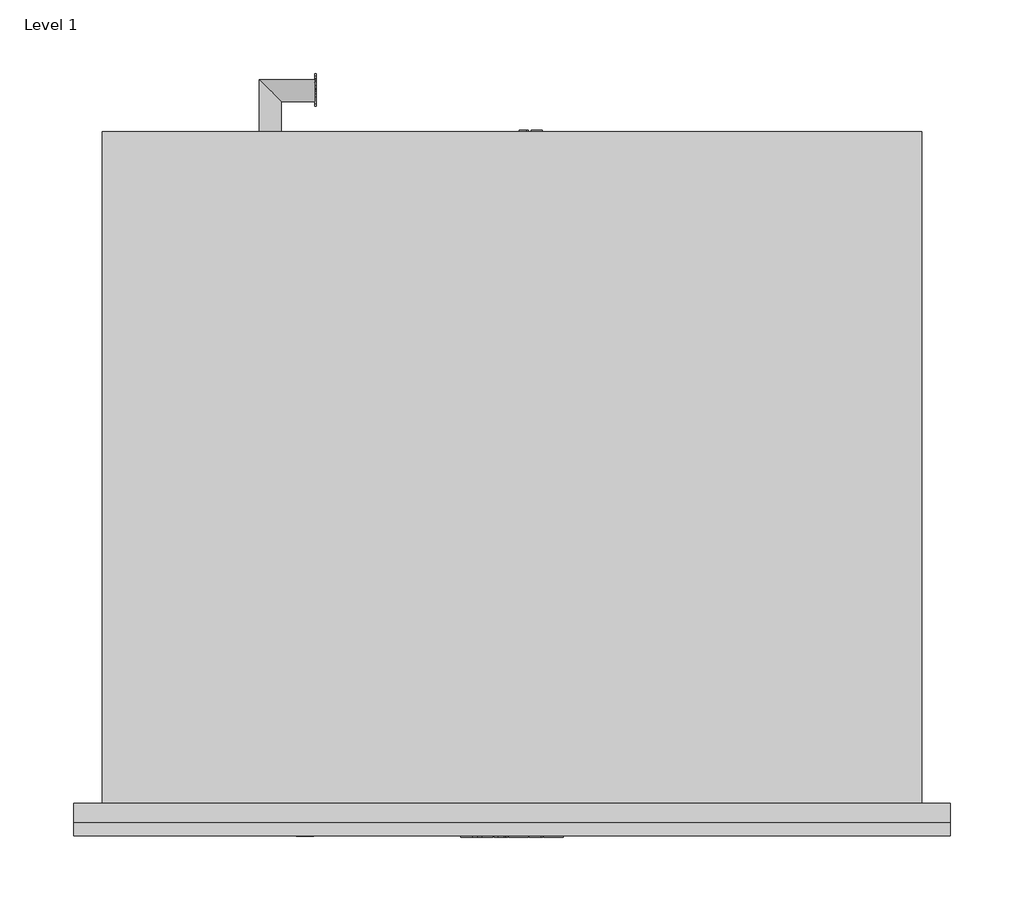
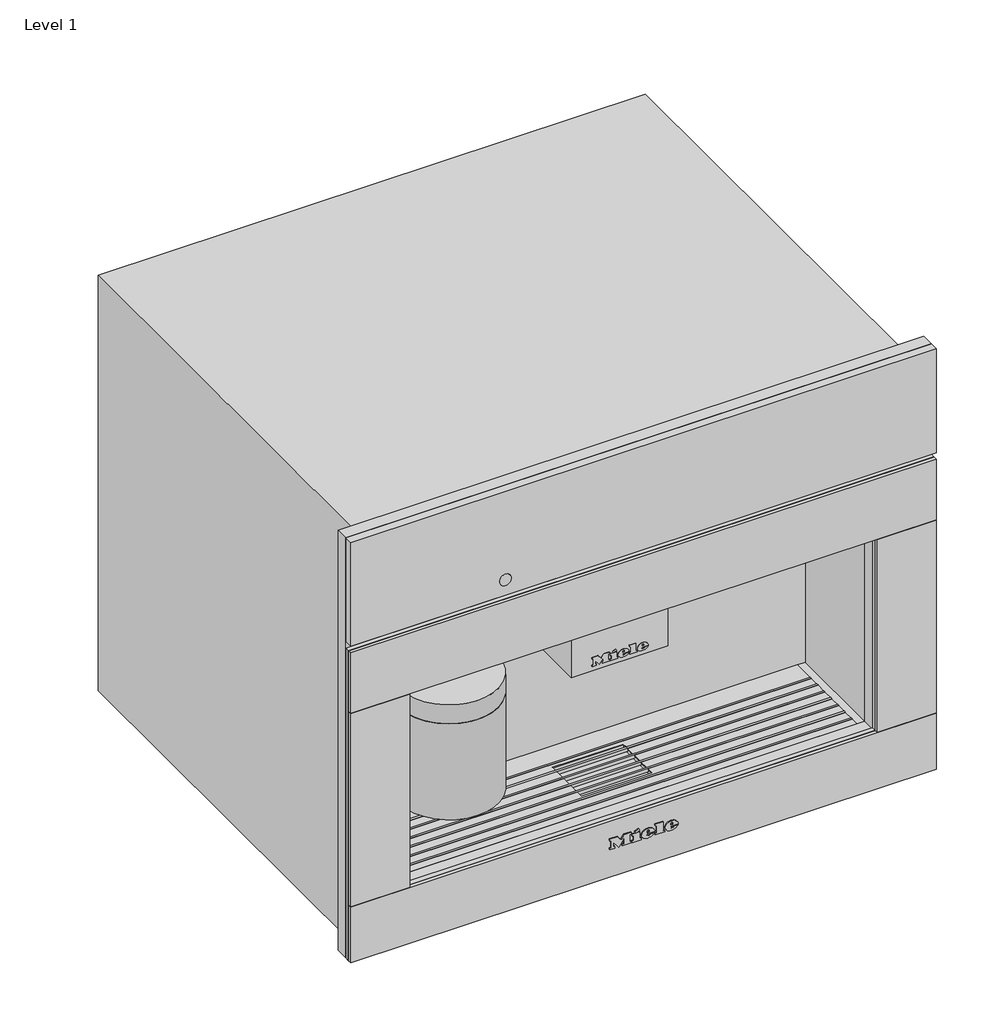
# One storey: 1 proxy.
"""IFC4 building model written with IfcOpenShell, lengths in millimetres."""

from ifc_helpers import new_model, si_unit, origin, place, context, project, spatial, transform, mapped, element, save
from components import specialty_equipment_7b8f3ad3

model = new_model("IFC4")

# Units and contexts
model_context = context("Model", 3, world=origin())
ifc_project = project(units=[si_unit("LENGTHUNIT", "METRE", prefix="MILLI")], contexts=[model_context])

# Site, building, storey
site = spatial("IfcSite", under=ifc_project)
building = spatial("IfcBuilding", under=site)
storey = spatial("IfcBuildingStorey", under=building, Name="Level 1", Elevation=0.0)

# Proxy
placement = place(None, origin())
specialty_equipment_shape = specialty_equipment_7b8f3ad3(model_context)
element("IfcBuildingElementProxy", 1, Name="11164800_CZ_CVA7845_OBSW : 29784520_CZ_11164800_CVA7845_OBSW", ObjectType="11164800_CZ_CVA7845_OBSW : 29784520_CZ_11164800_CVA7845_OBSW", at=placement, inside=storey, context=model_context, shape_type="MappedRepresentation", body=[
    mapped(specialty_equipment_shape, transform((0.0, 0.0, 0.0), x_axis=(1.0, 0.0, 0.0), y_axis=(0.0, 1.0, 0.0), z_axis=(0.0, 0.0, 1.0))),
])

save(model, "model.ifc")
